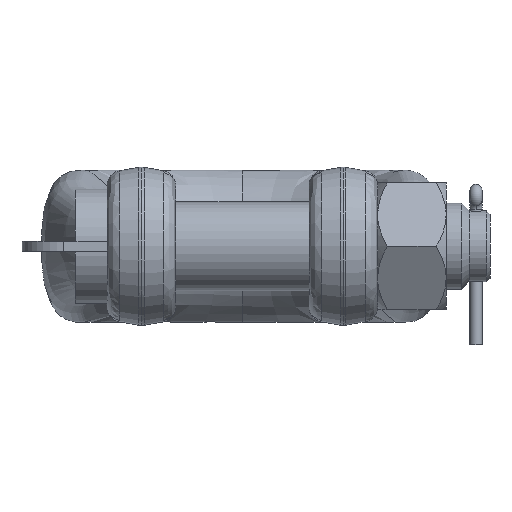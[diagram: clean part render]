
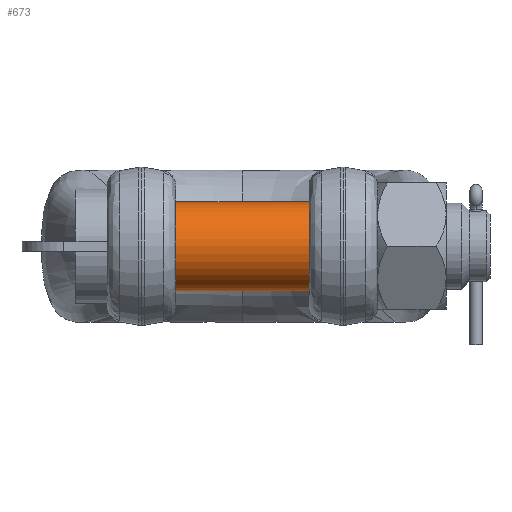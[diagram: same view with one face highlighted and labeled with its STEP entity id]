
A CAD part, front view. The second image highlights one B-rep face of the part: STEP entity #673.
In plain terms, the highlighted cylindrical face has radius 35 mm (diameter 70 mm), a partial arc.
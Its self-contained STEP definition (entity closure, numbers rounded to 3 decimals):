
#673=ADVANCED_FACE('NONE',(#1868),#1869,.T.);
#1868=FACE_OUTER_BOUND('',#3684,.T.);
#1869=CYLINDRICAL_SURFACE('',#3685,35.0);
#3684=EDGE_LOOP('',(#46683,#46684,#46685,#46686));
#3685=AXIS2_PLACEMENT_3D('',#46687,#46688,#46689);
#46683=ORIENTED_EDGE('',*,*,#50985,.F.);
#46684=ORIENTED_EDGE('',*,*,#51038,.T.);
#46685=ORIENTED_EDGE('',*,*,#50987,.T.);
#46686=ORIENTED_EDGE('',*,*,#51040,.T.);
#46687=CARTESIAN_POINT('',(-106.5,0.0,0.0));
#46688=DIRECTION('',(-1.0,-0.0,0.0));
#46689=DIRECTION('',(0.0,0.,-1.0));
#50985=EDGE_CURVE('NONE',#52997,#53003,#53004,.T.);
#50987=EDGE_CURVE('NONE',#52999,#53005,#53007,.T.);
#51038=EDGE_CURVE('NONE',#52997,#52999,#53074,.T.);
#51040=EDGE_CURVE('NONE',#53005,#53003,#53076,.T.);
#52997=VERTEX_POINT('NONE',#56031);
#52999=VERTEX_POINT('NONE',#56033);
#53003=VERTEX_POINT('NONE',#56037);
#53004=LINE('',#56038,#56039);
#53005=VERTEX_POINT('NONE',#56040);
#53007=LINE('',#56042,#56043);
#53074=CIRCLE('',#56393,35.0);
#53076=CIRCLE('',#56395,35.0);
#56031=CARTESIAN_POINT('',(-104.5,0.,35.0));
#56033=CARTESIAN_POINT('',(-104.5,0.,-35.0));
#56037=CARTESIAN_POINT('',(102.5,0.,35.0));
#56038=CARTESIAN_POINT('',(-106.5,0.,35.0));
#56039=VECTOR('',#75252,1000.0);
#56040=CARTESIAN_POINT('',(102.5,0.,-35.0));
#56042=CARTESIAN_POINT('',(-106.5,0.,-35.0));
#56043=VECTOR('',#75256,1000.0);
#56393=AXIS2_PLACEMENT_3D('',#75313,#75314,#75315);
#56395=AXIS2_PLACEMENT_3D('',#75316,#75317,#75318);
#75252=DIRECTION('',(1.0,0.0,0.0));
#75256=DIRECTION('',(1.0,0.0,0.0));
#75313=CARTESIAN_POINT('',(-104.5,0.0,0.0));
#75314=DIRECTION('',(1.0,0.0,0.0));
#75315=DIRECTION('',(0.0,0.,-1.0));
#75316=CARTESIAN_POINT('',(102.5,0.0,0.0));
#75317=DIRECTION('',(-1.0,-0.0,0.0));
#75318=DIRECTION('',(0.0,0.,-1.0));
